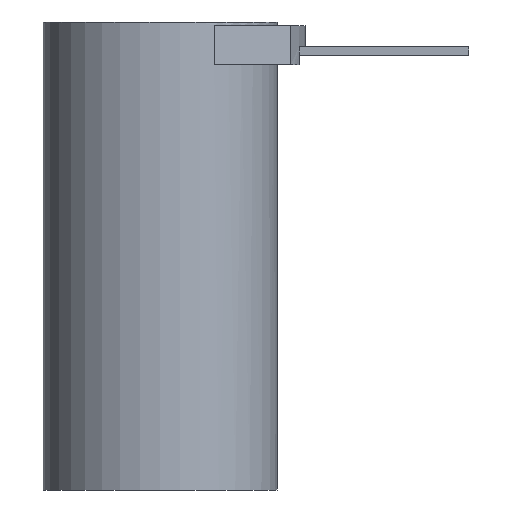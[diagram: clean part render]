
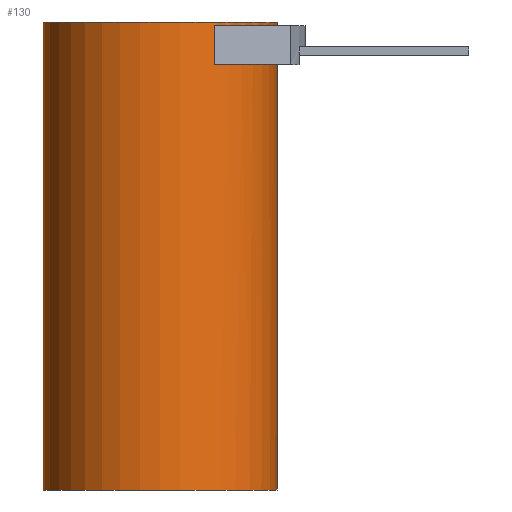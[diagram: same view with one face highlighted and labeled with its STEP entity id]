
A CAD part, front view. The second image highlights one B-rep face of the part: STEP entity #130.
In plain terms, the highlighted cylindrical face has radius 16.5 mm (diameter 33 mm), a partial arc.
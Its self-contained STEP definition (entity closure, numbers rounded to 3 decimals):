
#113=CYLINDRICAL_SURFACE('',#597,16.5);
#130=ADVANCED_FACE('',(#175),#113,.T.);
#175=FACE_OUTER_BOUND('',#198,.T.);
#198=EDGE_LOOP('',(#301,#302,#303,#304,#305,#306,#307,#308,#309,#310));
#224=CIRCLE('',#577,16.5);
#225=CIRCLE('',#580,16.5);
#230=CIRCLE('',#590,16.5);
#233=CIRCLE('',#595,16.5);
#234=CIRCLE('',#596,16.5);
#301=ORIENTED_EDGE('',*,*,#452,.F.);
#302=ORIENTED_EDGE('',*,*,#457,.F.);
#303=ORIENTED_EDGE('',*,*,#458,.T.);
#304=ORIENTED_EDGE('',*,*,#455,.T.);
#305=ORIENTED_EDGE('',*,*,#459,.F.);
#306=ORIENTED_EDGE('',*,*,#453,.F.);
#307=ORIENTED_EDGE('',*,*,#438,.F.);
#308=ORIENTED_EDGE('',*,*,#435,.F.);
#309=ORIENTED_EDGE('',*,*,#434,.F.);
#310=ORIENTED_EDGE('',*,*,#448,.F.);
#388=VERTEX_POINT('',#794);
#390=VERTEX_POINT('',#798);
#391=VERTEX_POINT('',#802);
#393=VERTEX_POINT('',#808);
#398=VERTEX_POINT('',#825);
#400=VERTEX_POINT('',#833);
#401=VERTEX_POINT('',#837);
#402=VERTEX_POINT('',#839);
#403=VERTEX_POINT('',#841);
#404=VERTEX_POINT('',#843);
#434=EDGE_CURVE('',#390,#388,#224,.T.);
#435=EDGE_CURVE('',#388,#391,#498,.T.);
#438=EDGE_CURVE('',#391,#393,#225,.T.);
#448=EDGE_CURVE('',#398,#390,#508,.T.);
#452=EDGE_CURVE('',#400,#398,#230,.T.);
#453=EDGE_CURVE('',#393,#401,#510,.T.);
#455=EDGE_CURVE('',#403,#402,#511,.T.);
#457=EDGE_CURVE('',#404,#400,#512,.T.);
#458=EDGE_CURVE('',#404,#403,#233,.T.);
#459=EDGE_CURVE('',#401,#402,#234,.T.);
#498=LINE('',#801,#537);
#508=LINE('',#827,#547);
#510=LINE('',#836,#549);
#511=LINE('',#840,#550);
#512=LINE('',#844,#551);
#537=VECTOR('',#647,1.);
#547=VECTOR('',#671,1.);
#549=VECTOR('',#685,1.);
#550=VECTOR('',#688,1.);
#551=VECTOR('',#691,1.);
#577=AXIS2_PLACEMENT_3D('',#799,#643,#644);
#580=AXIS2_PLACEMENT_3D('',#807,#652,#653);
#590=AXIS2_PLACEMENT_3D('',#834,#681,#682);
#595=AXIS2_PLACEMENT_3D('',#846,#694,#695);
#596=AXIS2_PLACEMENT_3D('',#847,#696,#697);
#597=AXIS2_PLACEMENT_3D('',#848,#698,#699);
#643=DIRECTION('',(0.,0.,1.));
#644=DIRECTION('',(-1.,0.,0.));
#647=DIRECTION('',(0.,0.,1.));
#652=DIRECTION('',(0.,0.,1.));
#653=DIRECTION('',(0.565,-0.825,0.));
#671=DIRECTION('',(0.,0.,-1.));
#681=DIRECTION('',(0.,0.,-1.));
#682=DIRECTION('',(-1.,0.,0.));
#685=DIRECTION('',(0.,0.,-1.));
#688=DIRECTION('',(0.,0.,-1.));
#691=DIRECTION('',(0.,0.,-1.));
#694=DIRECTION('',(0.,0.,-1.));
#695=DIRECTION('',(0.,1.,0.));
#696=DIRECTION('',(0.,0.,-1.));
#697=DIRECTION('',(0.,1.,0.));
#698=DIRECTION('',(0.,0.,-1.));
#699=DIRECTION('',(0.,-1.,0.));
#794=CARTESIAN_POINT('',(15.37,-6.,60.));
#798=CARTESIAN_POINT('',(7.633,-14.628,60.));
#799=CARTESIAN_POINT('',(0.,0.,60.));
#801=CARTESIAN_POINT('',(15.37,-6.,59.98));
#802=CARTESIAN_POINT('',(15.37,-6.,62.5));
#807=CARTESIAN_POINT('',(0.,0.,62.5));
#808=CARTESIAN_POINT('',(16.5,0.,62.5));
#825=CARTESIAN_POINT('',(7.633,-14.628,65.5));
#827=CARTESIAN_POINT('',(7.633,-14.628,66.02));
#833=CARTESIAN_POINT('',(16.5,0.,65.5));
#834=CARTESIAN_POINT('',(0.,0.,65.5));
#836=CARTESIAN_POINT('',(16.5,0.,0.));
#837=CARTESIAN_POINT('',(16.5,0.,0.));
#839=CARTESIAN_POINT('',(-16.5,0.,0.));
#840=CARTESIAN_POINT('',(-16.5,0.,0.));
#841=CARTESIAN_POINT('',(-16.5,0.,66.));
#843=CARTESIAN_POINT('',(16.5,0.,66.));
#844=CARTESIAN_POINT('',(16.5,0.,0.));
#846=CARTESIAN_POINT('',(0.,0.,66.));
#847=CARTESIAN_POINT('',(0.,0.,0.));
#848=CARTESIAN_POINT('',(0.,0.,66.));
